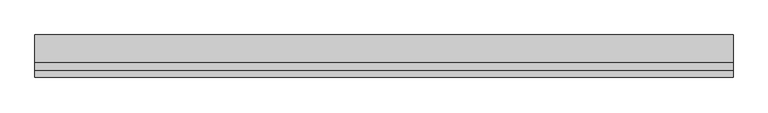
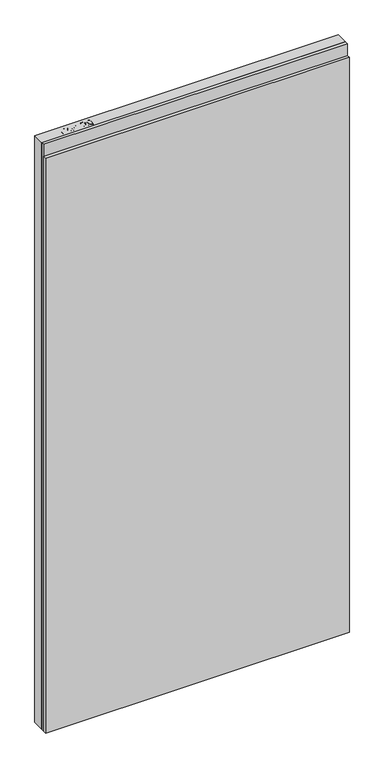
"""IFC4 building model written with IfcOpenShell, lengths in millimetres: proxy geometry, ParedeGeral_Blufab : Parede Geral - Largura 120 cm."""

from ifc_helpers import new_model, si_unit, origin, origin_with_axes, place, context, project, spatial, polyline, outline, extrude, source, transform, mapped, element, save


def generic_models_87fa6935(model_context):
    return source(origin(), model_context, "Body", "SweptSolid", [
        extrude(outline(polyline([(1200.0, 12.5), (1200.0, 0.0), (0.0, 0.0), (0.0, 12.5), (1200.0, 12.5)])), origin_with_axes(), (0.0, 0.0, 1.0), 2400.0),
        extrude(outline(polyline([(1200.0, 25.0126803), (1200.0, 12.5126803), (0.0, 12.5126803), (0.0, 25.0126803), (1200.0, 25.0126803)])), origin_with_axes(), (0.0, 0.0, 1.0), 2450.0),
        extrude(outline(polyline([(1200.0, 73.0), (1200.0, 25.0126803), (0.0, 25.0126803), (0.0, 73.0), (1200.0, 73.0)])), origin_with_axes(), (0.0, 0.0, 1.0), 2450.0),
        extrude(outline(polyline([(88.5489915, 33.3811762), (88.5489915, 63.5180693), (99.7178889, 63.5180693), (104.2207645, 63.2311213), (107.8811904, 61.8221333), (110.2540292, 58.9085079), (111.1516613, 54.799266), (108.727319, 48.2877547), (99.9754063, 45.624289), (92.3161032, 45.624289), (92.3161032, 33.3811762), (88.5489915, 33.3811762)]), holes=[polyline([(92.3161032, 49.3914006), (100.1961355, 49.3914006), (105.743796, 50.7746369), (107.3845497, 54.6668285), (106.41702, 57.7864678), (103.8749554, 59.4934402), (100.1078438, 59.7509576), (92.3161032, 59.7509576), (92.3161032, 49.3914006)])]), origin_with_axes(), (0.0, 0.0, 1.0), 2450.0),
        extrude(outline(polyline([(130.4581084, 45.1534001), (130.4581084, 48.9205117), (142.7012212, 48.9205117), (142.7012212, 37.655965), (136.65692, 34.1022249), (130.2668098, 32.9102873), (122.2212305, 34.8048795), (116.7618617, 40.2900001), (114.9187729, 48.3024699), (116.7545041, 56.495202), (122.0336107, 62.1421906), (129.9651465, 63.9889582), (135.8586161, 62.9184216), (139.9899309, 59.9385774), (142.2671205, 54.9537764), (138.7943144, 53.9752103), (137.0763055, 57.4590528), (134.1406072, 59.4676885), (129.9062854, 60.2218466), (125.0833525, 59.4088274), (121.8018451, 57.2751118), (119.863107, 54.3725229), (118.6858846, 48.4569804), (120.1022303, 41.8902868), (124.2225086, 37.9613071), (129.9651465, 36.6773989), (135.1191733, 37.6449285), (138.9341096, 39.7087465), (138.9341096, 45.1534001), (130.4581084, 45.1534001)])), origin_with_axes(), (0.0, 0.0, 1.0), 2450.0),
        extrude(outline(polyline([(161.5367794, 33.3811762), (157.7696677, 33.3811762), (157.7696677, 56.8667628), (154.2012124, 54.3246982), (150.2354445, 52.4227483), (150.2354445, 55.983846), (155.7573532, 59.5081555), (159.1087582, 63.5180693), (161.5367794, 63.5180693), (161.5367794, 33.3811762)])), origin_with_axes(), (0.0, 0.0, 1.0), 2450.0),
        extrude(outline(polyline([(189.7901166, 37.1482878), (189.7901166, 33.3811762), (170.0127805, 33.3811762), (170.4174507, 35.9784231), (172.7056767, 39.9773004), (177.4219239, 44.3440597), (183.9260776, 50.6201265), (185.552116, 54.8875577), (184.0180481, 58.3419696), (180.0118132, 59.7509576), (175.8363525, 58.375079), (174.2507811, 54.5711791), (170.4836695, 55.0420681), (173.3715432, 61.3475655), (180.0927472, 63.5180693), (186.8360242, 61.1047634), (189.3192276, 55.1156445), (188.6496824, 51.5435103), (186.4239963, 47.8499751), (181.0271675, 42.6885907), (176.6935176, 39.064953), (174.9939028, 37.1482878), (189.7901166, 37.1482878)])), origin_with_axes(), (0.0, 0.0, 1.0), 2450.0),
        extrude(outline(polyline([(193.5572282, 48.2068206), (194.664553, 56.8777992), (197.9534181, 61.8773156), (203.4458963, 63.5180693), (207.8457649, 62.5468608), (210.8844702, 59.7472788), (212.6503038, 55.288549), (213.3345643, 48.2068206), (212.2382759, 39.5726302), (208.9604474, 34.5620774), (203.4458963, 32.9102873), (196.5591453, 35.7797668), (193.5572282, 48.2068206)]), holes=[polyline([(197.3243399, 48.2141783), (199.0901734, 38.8589391), (203.4458963, 36.6773989), (207.8016191, 38.8662968), (209.5674527, 48.2141783), (207.8604802, 57.4627316), (203.4017504, 59.7509576), (199.1490346, 57.7349643), (197.3243399, 48.2141783)])]), origin_with_axes(), (0.0, 0.0, 1.0), 2450.0),
    ])


if __name__ == "__main__":
    model = new_model("IFC4")
    model_context = context("Model", 3, world=origin())
    ifc_project = project(units=[si_unit("LENGTHUNIT", "METRE", prefix="MILLI")], contexts=[model_context])
    site = spatial("IfcSite", under=ifc_project)
    building = spatial("IfcBuilding", under=site)
    placement = place(None, origin())
    generic_models_shape = generic_models_87fa6935(model_context)
    element("IfcBuildingElementProxy", 1, Name="ParedeGeral_Blufab : Parede Geral - Largura 120 cm", ObjectType="ParedeGeral_Blufab : Parede Geral - Largura 120 cm", at=placement, inside=building, context=model_context, shape_type="MappedRepresentation", body=[
        mapped(generic_models_shape, transform((0.0, 0.0, 0.0), x_axis=(1.0, 0.0, 0.0), y_axis=(0.0, 1.0, 0.0), z_axis=(0.0, 0.0, 1.0))),
    ])
    save(model, "model.ifc")
